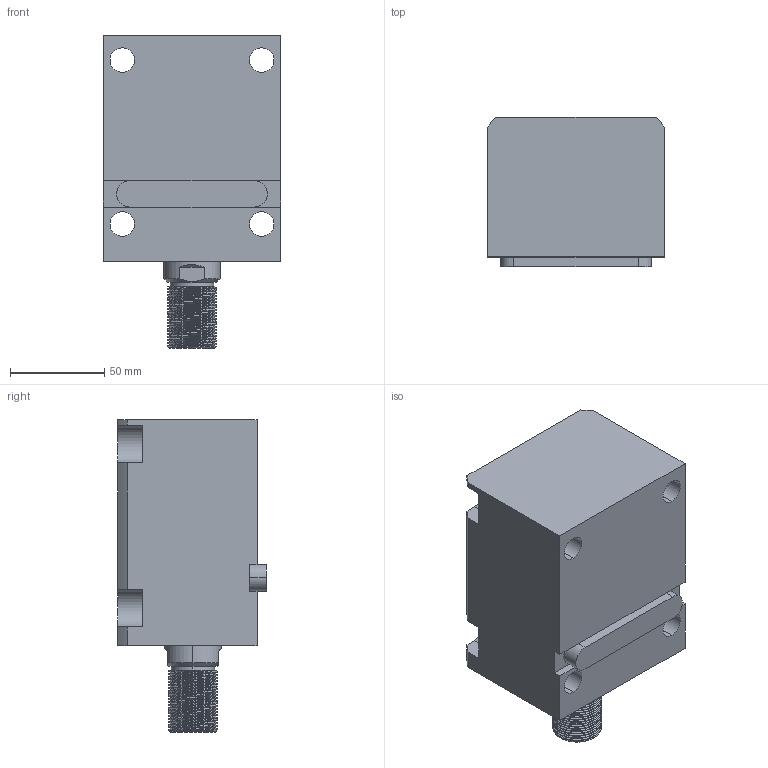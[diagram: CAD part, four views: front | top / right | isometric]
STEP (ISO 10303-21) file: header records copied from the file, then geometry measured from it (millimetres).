
FILE_DESCRIPTION (( 'STEP AP203' ), '1' );
FILE_NAME ('CHTB-LA50-60W.STEP', '2018-05-18T01:40:17', ( '' ), ( '' ), 'SwSTEP 2.0', 'SolidWorks 2015', '' );
FILE_SCHEMA (( 'CONFIG_CONTROL_DESIGN' ));
Length unit declared in the file: millimetre
Products named in the file (4): CHTM-SDMA50QG; 活塞杆LA50-60W; 掛极LA50-60W; CHTB-LA50-60W
Assembly tree (3 placements, depth 2):
  CHTB-LA50-60W
    掛极LA50-60W
    活塞杆LA50-60W
    CHTM-SDMA50QG
Bounding box: 94 x 79 x 166 mm (x, y, z)
Volume: 729199.2 mm3; surface area: 121711.7 mm2
Topology: 3 solids, 3 shells, 244 faces, 670 edges, 447 vertices
Faces by surface type: cylinder 136, plane 55, cone 21, bspline 16, torus 16
Entity records: 15046 total; most frequent: CARTESIAN_POINT 8903, ORIENTED_EDGE 1332, DIRECTION 1073, EDGE_CURVE 666, VERTEX_POINT 447, AXIS2_PLACEMENT_3D 416, EDGE_LOOP 277, ADVANCED_FACE 244
